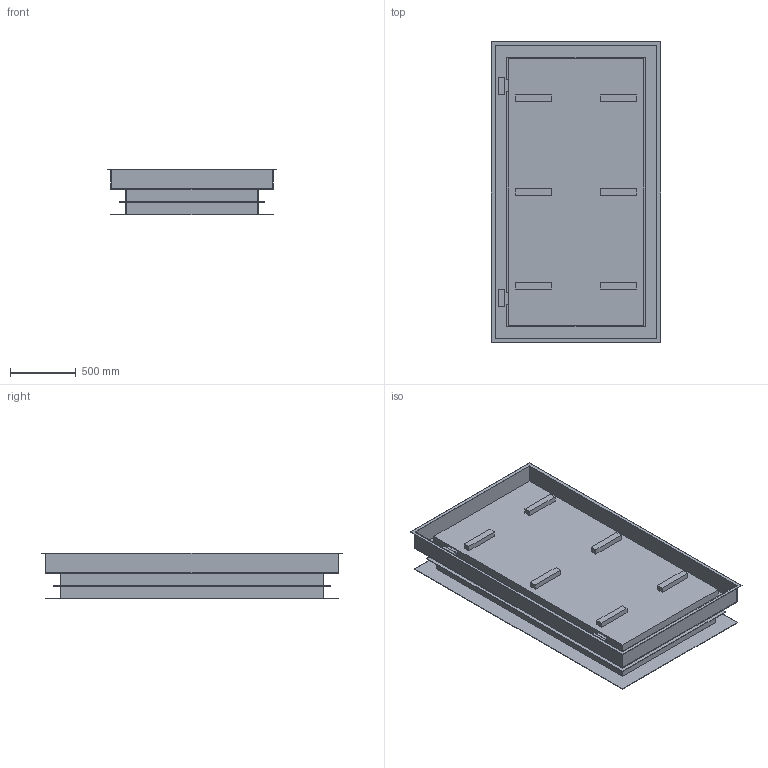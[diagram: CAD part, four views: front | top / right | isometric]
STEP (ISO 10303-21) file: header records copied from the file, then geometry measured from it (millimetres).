
FILE_DESCRIPTION((''),'2;1');
FILE_NAME('52061056','2022-11-11T06:44:54',('ka'),('HUBER SE'),'CREO PARAMETRIC BY PTC INC, 2022162','CREO PARAMETRIC BY PTC INC, 2022162','');
FILE_SCHEMA(('AUTOMOTIVE_DESIGN { 1 0 10303 214 1 1 1 1 }'));
Length unit declared in the file: millimetre
Products named in the file (1): 52061056
Bounding box: 1290 x 2290 x 350 mm (x, y, z)
Volume: 216795544 mm3; surface area: 13796528 mm2
Topology: 1 solids, 1 shells, 129 faces, 312 edges, 208 vertices
Faces by surface type: plane 129
Entity records: 5004 total; most frequent: CARTESIAN_POINT 651, ORIENTED_EDGE 624, DIRECTION 570, VECTOR 312, LINE 312, EDGE_CURVE 312, VERTEX_POINT 208, EDGE_LOOP 156
